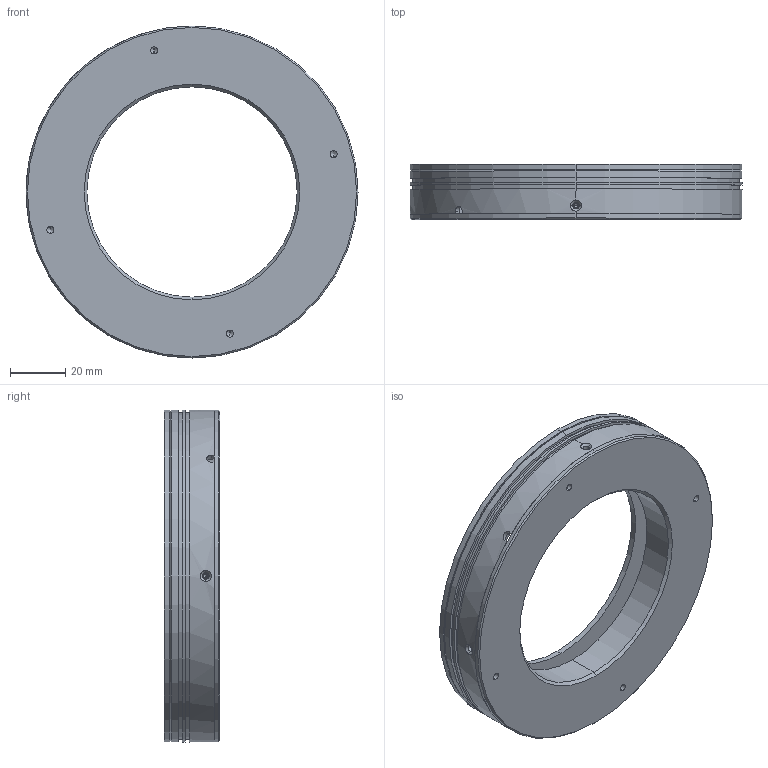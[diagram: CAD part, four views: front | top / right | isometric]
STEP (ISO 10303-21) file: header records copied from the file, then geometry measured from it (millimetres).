
FILE_DESCRIPTION (( 'STEP AP203' ), '1' );
FILE_NAME ('12090-00軞蚾.STEP', '2025-09-03T02:10:08', ( '' ), ( '' ), 'SwSTEP 2.0', 'SolidWorks 2022', '' );
FILE_SCHEMA (( 'CONFIG_CONTROL_DESIGN' ));
Length unit declared in the file: millimetre
Products named in the file (4): 12090 漫射板; 12090-00总装; 12090-002; 12090-001
Assembly tree (3 placements, depth 2):
  12090-00总装
    12090 漫射板
    12090-001
    12090-002
Bounding box: 120 x 20 x 120 mm (x, y, z)
Volume: 74711 mm3; surface area: 51260 mm2
Topology: 3 solids, 3 shells, 140 faces, 348 edges, 202 vertices
Faces by surface type: cylinder 69, cone 56, plane 15
Entity records: 4910 total; most frequent: CARTESIAN_POINT 1230, DIRECTION 720, ORIENTED_EDGE 648, EDGE_CURVE 324, AXIS2_PLACEMENT_3D 292, VERTEX_POINT 202, EDGE_LOOP 174, CIRCLE 146
